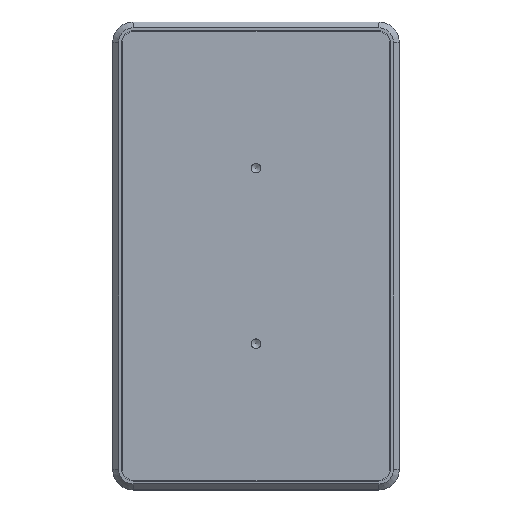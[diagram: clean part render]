
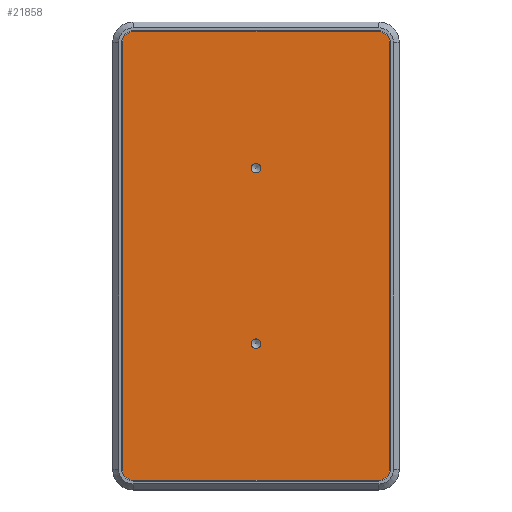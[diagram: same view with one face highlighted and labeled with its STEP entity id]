
A CAD part, top view. The second image highlights one B-rep face of the part: STEP entity #21858.
In plain terms, the highlighted planar face has unit normal (0, 0, 1).
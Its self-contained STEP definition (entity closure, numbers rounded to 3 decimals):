
#2080=FACE_BOUND('',#8004,.T.);
#2081=FACE_BOUND('',#8005,.T.);
#2529=LINE('',#36890,#4115);
#2533=LINE('',#36899,#4119);
#2536=LINE('',#36907,#4122);
#2539=LINE('',#36915,#4125);
#4115=VECTOR('',#25931,10.);
#4119=VECTOR('',#25941,10.);
#4122=VECTOR('',#25950,10.);
#4125=VECTOR('',#25959,10.);
#6606=FACE_OUTER_BOUND('',#8003,.T.);
#8003=EDGE_LOOP('',(#19818,#19819,#19820,#19821,#19822,#19823,#19824,#19825));
#8004=EDGE_LOOP('',(#19826));
#8005=EDGE_LOOP('',(#19827));
#8343=CIRCLE('',#22513,4.);
#8344=CIRCLE('',#22516,4.);
#8345=CIRCLE('',#22519,4.);
#8346=CIRCLE('',#22522,4.);
#8347=CIRCLE('',#22524,1.621);
#8349=CIRCLE('',#22528,1.621);
#9825=VERTEX_POINT('',#36888);
#9826=VERTEX_POINT('',#36889);
#9827=VERTEX_POINT('',#36894);
#9828=VERTEX_POINT('',#36898);
#9829=VERTEX_POINT('',#36902);
#9830=VERTEX_POINT('',#36906);
#9831=VERTEX_POINT('',#36910);
#9832=VERTEX_POINT('',#36914);
#9833=VERTEX_POINT('',#36920);
#9836=VERTEX_POINT('',#36929);
#12009=EDGE_CURVE('',#9825,#9826,#2529,.T.);
#12012=EDGE_CURVE('',#9827,#9825,#8343,.T.);
#12014=EDGE_CURVE('',#9828,#9827,#2533,.T.);
#12016=EDGE_CURVE('',#9829,#9828,#8344,.T.);
#12018=EDGE_CURVE('',#9830,#9829,#2536,.T.);
#12020=EDGE_CURVE('',#9831,#9830,#8345,.T.);
#12022=EDGE_CURVE('',#9832,#9831,#2539,.T.);
#12024=EDGE_CURVE('',#9826,#9832,#8346,.T.);
#12025=EDGE_CURVE('',#9833,#9833,#8347,.T.);
#12029=EDGE_CURVE('',#9836,#9836,#8349,.T.);
#19818=ORIENTED_EDGE('',*,*,#12024,.F.);
#19819=ORIENTED_EDGE('',*,*,#12009,.F.);
#19820=ORIENTED_EDGE('',*,*,#12012,.F.);
#19821=ORIENTED_EDGE('',*,*,#12014,.F.);
#19822=ORIENTED_EDGE('',*,*,#12016,.F.);
#19823=ORIENTED_EDGE('',*,*,#12018,.F.);
#19824=ORIENTED_EDGE('',*,*,#12020,.F.);
#19825=ORIENTED_EDGE('',*,*,#12022,.F.);
#19826=ORIENTED_EDGE('',*,*,#12029,.T.);
#19827=ORIENTED_EDGE('',*,*,#12025,.T.);
#20664=PLANE('',#24248);
#21858=ADVANCED_FACE('',(#6606,#2080,#2081),#20664,.F.);
#22513=AXIS2_PLACEMENT_3D('',#36895,#25936,#25937);
#22516=AXIS2_PLACEMENT_3D('',#36903,#25945,#25946);
#22519=AXIS2_PLACEMENT_3D('',#36911,#25954,#25955);
#22522=AXIS2_PLACEMENT_3D('',#36918,#25963,#25964);
#22524=AXIS2_PLACEMENT_3D('',#36921,#25967,#25968);
#22528=AXIS2_PLACEMENT_3D('',#36930,#25977,#25978);
#24248=AXIS2_PLACEMENT_3D('',#41309,#30510,#30511);
#25931=DIRECTION('',(-1.,0.,0.));
#25936=DIRECTION('center_axis',(0.,0.,
-1.));
#25937=DIRECTION('ref_axis',(0.,-1.,0.));
#25941=DIRECTION('',(0.,-1.,0.));
#25945=DIRECTION('center_axis',(0.,0.,
-1.));
#25946=DIRECTION('ref_axis',(1.,0.,0.));
#25950=DIRECTION('',(1.,0.,0.));
#25954=DIRECTION('center_axis',(0.,0.,
-1.));
#25955=DIRECTION('ref_axis',(0.,1.,0.));
#25959=DIRECTION('',(0.,1.,0.));
#25963=DIRECTION('center_axis',(0.,0.,
-1.));
#25964=DIRECTION('ref_axis',(-1.,0.,0.));
#25967=DIRECTION('center_axis',(0.,0.,
-1.));
#25968=DIRECTION('ref_axis',(1.,0.,0.));
#25977=DIRECTION('center_axis',(0.,0.,
-1.));
#25978=DIRECTION('ref_axis',(1.,0.,0.));
#30510=DIRECTION('center_axis',(0.,0.,
-1.));
#30511=DIRECTION('ref_axis',(-1.,0.,0.));
#36888=CARTESIAN_POINT('',(91.074,4.14,33.));
#36889=CARTESIAN_POINT('',(7.574,4.14,33.));
#36890=CARTESIAN_POINT('',(7.574,4.14,33.));
#36894=CARTESIAN_POINT('',(95.074,8.14,33.));
#36895=CARTESIAN_POINT('Origin',(91.074,8.14,33.));
#36898=CARTESIAN_POINT('',(95.074,153.64,33.));
#36899=CARTESIAN_POINT('',(95.074,8.14,33.));
#36902=CARTESIAN_POINT('',(91.074,157.64,33.));
#36903=CARTESIAN_POINT('Origin',(91.074,153.64,33.));
#36906=CARTESIAN_POINT('',(7.574,157.64,33.));
#36907=CARTESIAN_POINT('',(91.074,157.64,33.));
#36910=CARTESIAN_POINT('',(3.574,153.64,33.));
#36911=CARTESIAN_POINT('Origin',(7.574,153.64,33.));
#36914=CARTESIAN_POINT('',(3.574,8.14,33.));
#36915=CARTESIAN_POINT('',(3.574,153.64,33.));
#36918=CARTESIAN_POINT('Origin',(7.574,8.14,33.));
#36920=CARTESIAN_POINT('',(47.703,50.89,33.));
#36921=CARTESIAN_POINT('Origin',(49.324,50.89,33.));
#36929=CARTESIAN_POINT('',(47.703,110.89,33.));
#36930=CARTESIAN_POINT('Origin',(49.324,110.89,33.));
#41309=CARTESIAN_POINT('Origin',(89.324,151.89,33.));
